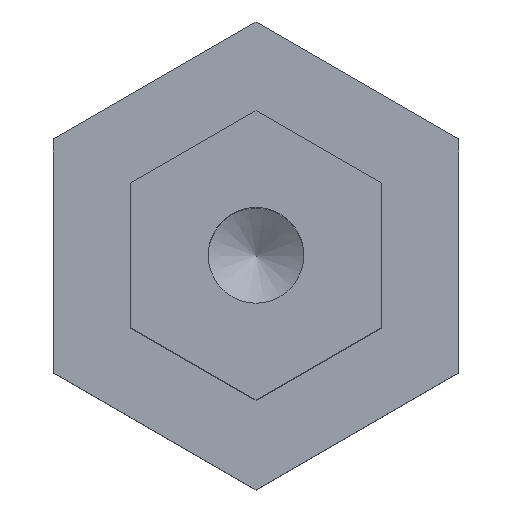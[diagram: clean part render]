
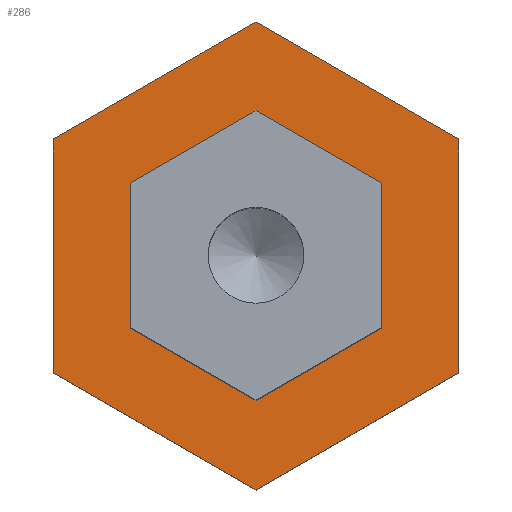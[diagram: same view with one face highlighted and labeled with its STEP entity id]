
A CAD part, top view. The second image highlights one B-rep face of the part: STEP entity #286.
In plain terms, the highlighted planar face has unit normal (0, 0, 1).
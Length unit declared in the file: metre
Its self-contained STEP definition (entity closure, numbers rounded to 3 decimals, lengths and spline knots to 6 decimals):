
#17=ORIENTED_EDGE('',*,*,#93,.F.);
#18=ORIENTED_EDGE('',*,*,#94,.F.);
#19=ORIENTED_EDGE('',*,*,#95,.F.);
#20=ORIENTED_EDGE('',*,*,#96,.F.);
#21=ORIENTED_EDGE('',*,*,#97,.F.);
#22=ORIENTED_EDGE('',*,*,#98,.F.);
#23=ORIENTED_EDGE('',*,*,#99,.F.);
#24=ORIENTED_EDGE('',*,*,#100,.F.);
#25=ORIENTED_EDGE('',*,*,#101,.F.);
#26=ORIENTED_EDGE('',*,*,#102,.F.);
#27=ORIENTED_EDGE('',*,*,#103,.F.);
#28=ORIENTED_EDGE('',*,*,#104,.F.);
#93=EDGE_CURVE('',#131,#132,#158,.T.);
#94=EDGE_CURVE('',#133,#131,#159,.T.);
#95=EDGE_CURVE('',#134,#133,#160,.T.);
#96=EDGE_CURVE('',#135,#134,#161,.T.);
#97=EDGE_CURVE('',#136,#135,#162,.T.);
#98=EDGE_CURVE('',#132,#136,#163,.T.);
#99=EDGE_CURVE('',#137,#138,#164,.T.);
#100=EDGE_CURVE('',#139,#137,#165,.F.);
#101=EDGE_CURVE('',#140,#139,#166,.F.);
#102=EDGE_CURVE('',#141,#140,#167,.F.);
#103=EDGE_CURVE('',#142,#141,#168,.F.);
#104=EDGE_CURVE('',#138,#142,#169,.F.);
#131=VERTEX_POINT('',#414);
#132=VERTEX_POINT('',#415);
#133=VERTEX_POINT('',#417);
#134=VERTEX_POINT('',#419);
#135=VERTEX_POINT('',#421);
#136=VERTEX_POINT('',#423);
#137=VERTEX_POINT('',#426);
#138=VERTEX_POINT('',#427);
#139=VERTEX_POINT('',#429);
#140=VERTEX_POINT('',#431);
#141=VERTEX_POINT('',#433);
#142=VERTEX_POINT('',#435);
#158=LINE('',#413,#194);
#159=LINE('',#416,#195);
#160=LINE('',#418,#196);
#161=LINE('',#420,#197);
#162=LINE('',#422,#198);
#163=LINE('',#424,#199);
#164=LINE('',#425,#200);
#165=LINE('',#428,#201);
#166=LINE('',#430,#202);
#167=LINE('',#432,#203);
#168=LINE('',#434,#204);
#169=LINE('',#436,#205);
#194=VECTOR('',#339,1.);
#195=VECTOR('',#340,1.);
#196=VECTOR('',#341,1.);
#197=VECTOR('',#342,1.);
#198=VECTOR('',#343,1.);
#199=VECTOR('',#344,1.);
#200=VECTOR('',#345,1.);
#201=VECTOR('',#346,1.);
#202=VECTOR('',#347,1.);
#203=VECTOR('',#348,1.);
#204=VECTOR('',#349,1.);
#205=VECTOR('',#350,1.);
#230=EDGE_LOOP('',(#17,#18,#19,#20,#21,#22));
#231=EDGE_LOOP('',(#23,#24,#25,#26,#27,#28));
#250=FACE_BOUND('',#230,.T.);
#251=FACE_BOUND('',#231,.T.);
#271=PLANE('',#316);
#286=ADVANCED_FACE('',(#250,#251),#271,.F.);
#316=AXIS2_PLACEMENT_3D('',#412,#337,#338);
#337=DIRECTION('',(0.,0.,-1.));
#338=DIRECTION('',(1.,0.,0.));
#339=DIRECTION('',(0.,-1.,0.));
#340=DIRECTION('',(0.866,-0.5,0.));
#341=DIRECTION('',(0.866,0.5,0.));
#342=DIRECTION('',(0.,1.,0.));
#343=DIRECTION('',(-0.866,0.5,0.));
#344=DIRECTION('',(-0.866,-0.5,0.));
#345=DIRECTION('',(0.,1.,0.));
#346=DIRECTION('',(-0.866,-0.5,0.));
#347=DIRECTION('',(-0.866,0.5,0.));
#348=DIRECTION('',(0.,1.,0.));
#349=DIRECTION('',(0.866,0.5,0.));
#350=DIRECTION('',(0.866,-0.5,0.));
#412=CARTESIAN_POINT('',(0.,-0.099,-0.009));
#413=CARTESIAN_POINT('',(0.0845,0.0185,-0.009));
#414=CARTESIAN_POINT('',(0.0845,0.021675,-0.009));
#415=CARTESIAN_POINT('',(0.0845,0.015325,-0.009));
#416=CARTESIAN_POINT('',(0.08175,0.023263,-0.009));
#417=CARTESIAN_POINT('',(0.079,0.024851,-0.009));
#418=CARTESIAN_POINT('',(0.07625,0.023263,-0.009));
#419=CARTESIAN_POINT('',(0.0735,0.021675,-0.009));
#420=CARTESIAN_POINT('',(0.0735,0.0185,-0.009));
#421=CARTESIAN_POINT('',(0.0735,0.015325,-0.009));
#422=CARTESIAN_POINT('',(0.07625,0.013737,-0.009));
#423=CARTESIAN_POINT('',(0.079,0.012149,-0.009));
#424=CARTESIAN_POINT('',(0.08175,0.013737,-0.009));
#425=CARTESIAN_POINT('',(0.0824,-0.099,-0.009));
#426=CARTESIAN_POINT('',(0.0824,0.016537,-0.009));
#427=CARTESIAN_POINT('',(0.0824,0.020463,-0.009));
#428=CARTESIAN_POINT('',(-0.029429,-0.048027,-0.009));
#429=CARTESIAN_POINT('',(0.079,0.014574,-0.009));
#430=CARTESIAN_POINT('',(0.068929,0.020389,-0.009));
#431=CARTESIAN_POINT('',(0.0756,0.016537,-0.009));
#432=CARTESIAN_POINT('',(0.0756,-0.099,-0.009));
#433=CARTESIAN_POINT('',(0.0756,0.020463,-0.009));
#434=CARTESIAN_POINT('',(-0.032829,-0.042139,-0.009));
#435=CARTESIAN_POINT('',(0.079,0.022426,-0.009));
#436=CARTESIAN_POINT('',(0.072329,0.026277,-0.009));
